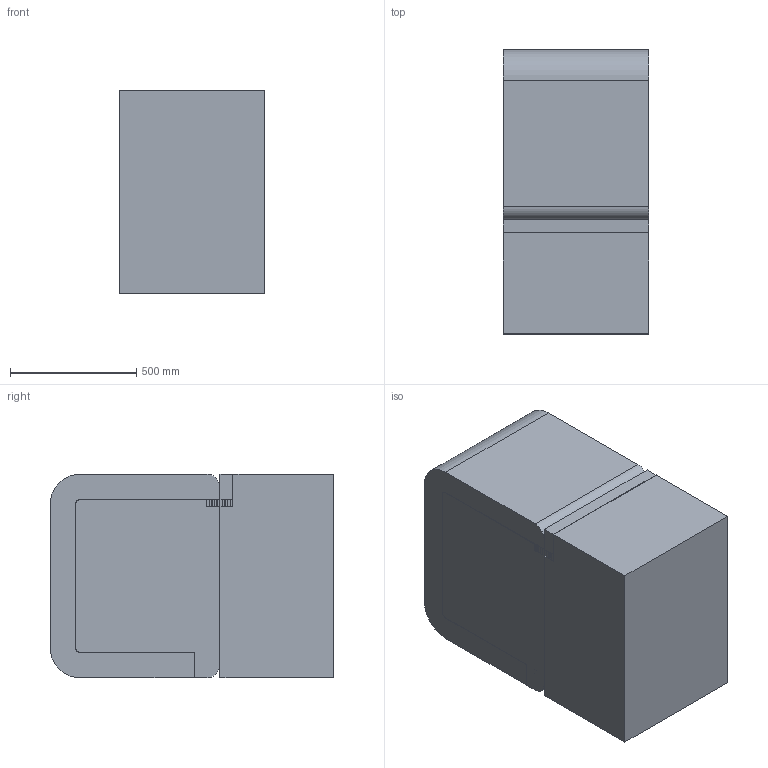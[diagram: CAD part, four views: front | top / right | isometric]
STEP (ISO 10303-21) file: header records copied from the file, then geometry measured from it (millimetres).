
FILE_DESCRIPTION(/* description */ (''),/* implementation_level */ '2;1');
FILE_NAME(/* name */ 'ChamberFlowTest.step',/* time_stamp */ '2024-09-30T15:19:56-07:00',/* author */ (''),/* organization */ (''),/* preprocessor_version */ 'ST-DEVELOPER v20',/* originating_system */ 'Autodesk Translation Framework v13.20.0.188',/* authorisation */ '');
FILE_SCHEMA (('AUTOMOTIVE_DESIGN { 1 0 10303 214 3 1 1 }'));
Products named in the file (2): NotHexed; InnerFans
Assembly tree (4 placements, depth 2):
  NotHexed
    InnerFans  x4
Bounding box: 576 x 1124.5 x 807 mm (x, y, z)
Volume: 517996084.3 mm3; surface area: 7220308.6 mm2
Topology: 49 solids, 49 shells, 2470 faces, 7652 edges, 5103 vertices
Faces by surface type: plane 2462, cylinder 8
Entity records: 80303 total; most frequent: ORIENTED_EDGE 14440, CARTESIAN_POINT 14295, DIRECTION 11756, EDGE_CURVE 7220, LINE 7204, VECTOR 7204, VERTEX_POINT 4815, EDGE_LOOP 3235
